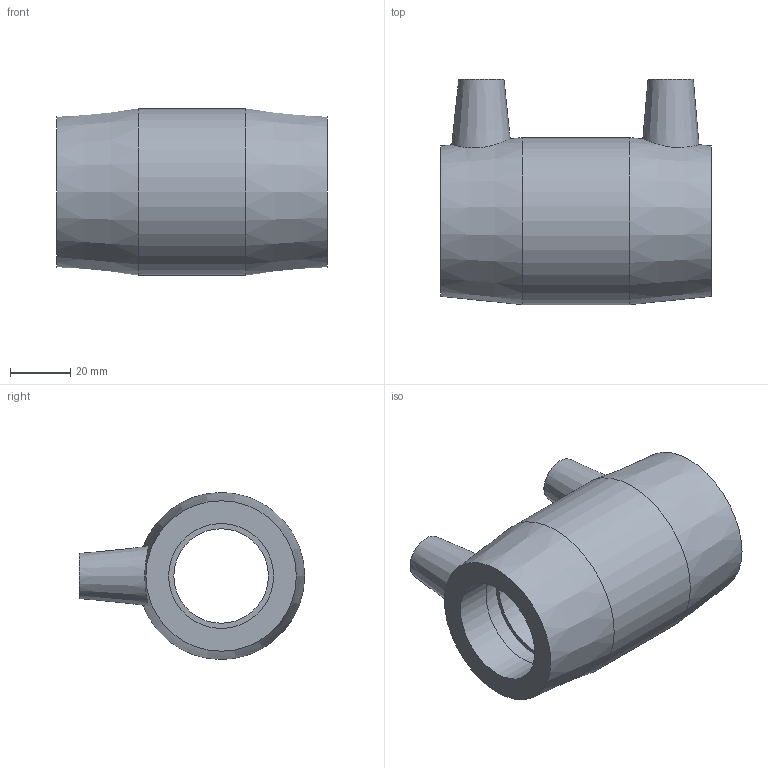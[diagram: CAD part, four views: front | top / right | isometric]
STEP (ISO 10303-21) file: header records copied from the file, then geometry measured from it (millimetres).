
FILE_DESCRIPTION(/* description */ ('PLASSON ASTM REDUCING COUPLER 1 1/4''''IPS-1 1/4''''CTS'),/* implementation_level */ '2;1');
FILE_NAME(/* name */ 'C:\Dropbox\KIMPROJECTS-Inventor 2019\99-16-3568-Processing Inch\ASTM ElectroFusion 2021\5911\5911BU03013013.ipt.stp',/* time_stamp */ '2021-08-30T09:50:14+03:00',/* author */ ('KIM'),/* organization */ (''),/* preprocessor_version */ 'ST-DEVELOPER v17.2',/* originating_system */ 'Autodesk Inventor 2019',/* authorisation */ '');
FILE_SCHEMA (('AUTOMOTIVE_DESIGN { 1 0 10303 214 3 1 1 }'));
Length unit declared in the file: inch
Products named in the file (1): 5911BU03013013
Bounding box: 89.66 x 74.68 x 55.37 mm (x, y, z)
Volume: 106014.2 mm3; surface area: 32359.9 mm2
Topology: 1 solids, 1 shells, 29 faces, 66 edges, 49 vertices
Faces by surface type: plane 12, cylinder 10, cone 7
Full cylindrical faces by diameter (mm): 4 x2, 10 x2, 31.32 x1, 34.8 x2, 42.1 x2, 55.372 x1
Entity records: 972 total; most frequent: CARTESIAN_POINT 213, DIRECTION 167, ORIENTED_EDGE 132, AXIS2_PLACEMENT_3D 75, EDGE_CURVE 66, VERTEX_POINT 49, CIRCLE 45, EDGE_LOOP 41
